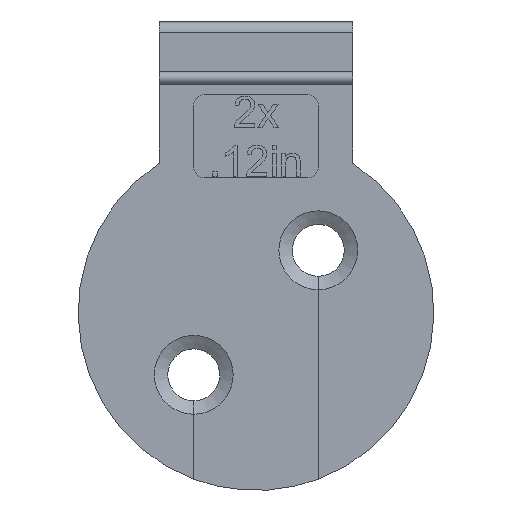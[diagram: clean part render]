
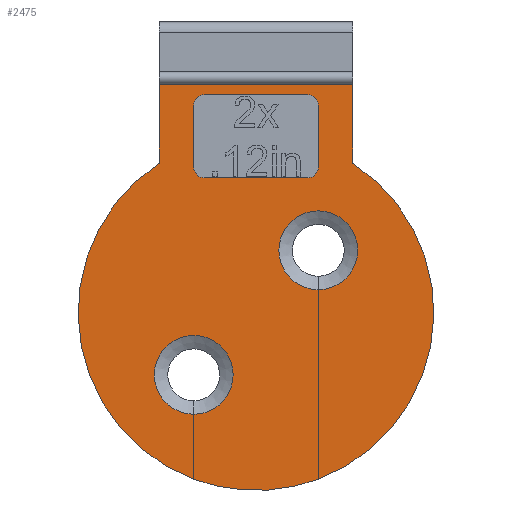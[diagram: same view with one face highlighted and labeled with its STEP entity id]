
A CAD part, left-side view. The second image highlights one B-rep face of the part: STEP entity #2475.
In plain terms, the highlighted planar face has unit normal (-1, 0, 0).
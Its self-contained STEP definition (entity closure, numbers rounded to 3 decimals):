
#60=FACE_BOUND('',#438,.T.);
#62=CIRCLE('',#2581,0.5);
#64=CIRCLE('',#2585,0.5);
#66=CIRCLE('',#2589,0.5);
#68=CIRCLE('',#2593,0.5);
#70=CIRCLE('',#2602,1.9);
#78=CIRCLE('',#2616,8.57);
#79=CIRCLE('',#2617,8.57);
#80=CIRCLE('',#2618,1.9);
#81=CIRCLE('',#2619,8.57);
#299=FACE_OUTER_BOUND('',#437,.T.);
#437=EDGE_LOOP('',(#2115,#2116,#2117,#2118,#2119,#2120,#2121,#2122,#2123,
#2124,#2125,#2126));
#438=EDGE_LOOP('',(#2127,#2128,#2129,#2130,#2131,#2132,#2133,#2134));
#636=LINE('',#4020,#891);
#640=LINE('',#4032,#895);
#644=LINE('',#4044,#899);
#648=LINE('',#4054,#903);
#656=LINE('',#4073,#911);
#658=LINE('',#4086,#913);
#669=LINE('',#4109,#924);
#677=LINE('',#4134,#932);
#681=LINE('',#4159,#936);
#682=LINE('',#4161,#937);
#683=LINE('',#4163,#938);
#891=VECTOR('',#2956,10.);
#895=VECTOR('',#2968,10.);
#899=VECTOR('',#2980,10.);
#903=VECTOR('',#2992,10.);
#911=VECTOR('',#3004,10.);
#913=VECTOR('',#3008,10.);
#924=VECTOR('',#3021,10.);
#932=VECTOR('',#3031,10.);
#936=VECTOR('',#3069,10.);
#937=VECTOR('',#3070,10.);
#938=VECTOR('',#3071,10.);
#1126=VERTEX_POINT('',#4011);
#1127=VERTEX_POINT('',#4013);
#1129=VERTEX_POINT('',#4019);
#1131=VERTEX_POINT('',#4025);
#1133=VERTEX_POINT('',#4031);
#1135=VERTEX_POINT('',#4037);
#1137=VERTEX_POINT('',#4043);
#1139=VERTEX_POINT('',#4049);
#1147=VERTEX_POINT('',#4070);
#1148=VERTEX_POINT('',#4072);
#1151=VERTEX_POINT('',#4081);
#1152=VERTEX_POINT('',#4085);
#1162=VERTEX_POINT('',#4106);
#1163=VERTEX_POINT('',#4108);
#1172=VERTEX_POINT('',#4129);
#1173=VERTEX_POINT('',#4133);
#1176=VERTEX_POINT('',#4156);
#1177=VERTEX_POINT('',#4158);
#1178=VERTEX_POINT('',#4160);
#1179=VERTEX_POINT('',#4162);
#1439=EDGE_CURVE('',#1127,#1126,#62,.T.);
#1442=EDGE_CURVE('',#1129,#1127,#636,.T.);
#1445=EDGE_CURVE('',#1131,#1129,#64,.T.);
#1448=EDGE_CURVE('',#1133,#1131,#640,.T.);
#1451=EDGE_CURVE('',#1135,#1133,#66,.T.);
#1454=EDGE_CURVE('',#1137,#1135,#644,.T.);
#1457=EDGE_CURVE('',#1139,#1137,#68,.T.);
#1460=EDGE_CURVE('',#1126,#1139,#648,.T.);
#1468=EDGE_CURVE('',#1148,#1147,#656,.T.);
#1472=EDGE_CURVE('',#1152,#1151,#658,.T.);
#1483=EDGE_CURVE('',#1163,#1162,#669,.T.);
#1493=EDGE_CURVE('',#1173,#1172,#677,.T.);
#1498=EDGE_CURVE('',#1147,#1152,#70,.T.);
#1506=EDGE_CURVE('',#1176,#1151,#78,.T.);
#1507=EDGE_CURVE('',#1177,#1176,#681,.T.);
#1508=EDGE_CURVE('',#1178,#1177,#682,.T.);
#1509=EDGE_CURVE('',#1179,#1178,#683,.T.);
#1510=EDGE_CURVE('',#1163,#1179,#79,.T.);
#1511=EDGE_CURVE('',#1162,#1173,#80,.T.);
#1512=EDGE_CURVE('',#1148,#1172,#81,.T.);
#2115=ORIENTED_EDGE('',*,*,#1468,.T.);
#2116=ORIENTED_EDGE('',*,*,#1498,.T.);
#2117=ORIENTED_EDGE('',*,*,#1472,.T.);
#2118=ORIENTED_EDGE('',*,*,#1506,.F.);
#2119=ORIENTED_EDGE('',*,*,#1507,.F.);
#2120=ORIENTED_EDGE('',*,*,#1508,.F.);
#2121=ORIENTED_EDGE('',*,*,#1509,.F.);
#2122=ORIENTED_EDGE('',*,*,#1510,.F.);
#2123=ORIENTED_EDGE('',*,*,#1483,.T.);
#2124=ORIENTED_EDGE('',*,*,#1511,.T.);
#2125=ORIENTED_EDGE('',*,*,#1493,.T.);
#2126=ORIENTED_EDGE('',*,*,#1512,.F.);
#2127=ORIENTED_EDGE('',*,*,#1439,.T.);
#2128=ORIENTED_EDGE('',*,*,#1460,.T.);
#2129=ORIENTED_EDGE('',*,*,#1457,.T.);
#2130=ORIENTED_EDGE('',*,*,#1454,.T.);
#2131=ORIENTED_EDGE('',*,*,#1451,.T.);
#2132=ORIENTED_EDGE('',*,*,#1448,.T.);
#2133=ORIENTED_EDGE('',*,*,#1445,.T.);
#2134=ORIENTED_EDGE('',*,*,#1442,.T.);
#2358=PLANE('',#2615);
#2475=ADVANCED_FACE('',(#299,#60),#2358,.F.);
#2581=AXIS2_PLACEMENT_3D('',#4014,#2950,#2951);
#2585=AXIS2_PLACEMENT_3D('',#4026,#2962,#2963);
#2589=AXIS2_PLACEMENT_3D('',#4038,#2974,#2975);
#2593=AXIS2_PLACEMENT_3D('',#4050,#2986,#2987);
#2602=AXIS2_PLACEMENT_3D('',#4142,#3039,#3040);
#2615=AXIS2_PLACEMENT_3D('',#4155,#3065,#3066);
#2616=AXIS2_PLACEMENT_3D('',#4157,#3067,#3068);
#2617=AXIS2_PLACEMENT_3D('',#4164,#3072,#3073);
#2618=AXIS2_PLACEMENT_3D('',#4165,#3074,#3075);
#2619=AXIS2_PLACEMENT_3D('',#4166,#3076,#3077);
#2950=DIRECTION('center_axis',(1.,0.,0.));
#2951=DIRECTION('ref_axis',(0.,0.,-1.));
#2956=DIRECTION('',(0.,0.,1.));
#2962=DIRECTION('center_axis',(1.,0.,0.));
#2963=DIRECTION('ref_axis',(0.,-1.,0.));
#2968=DIRECTION('',(0.,1.,0.));
#2974=DIRECTION('center_axis',(1.,0.,0.));
#2975=DIRECTION('ref_axis',(0.,0.,
1.));
#2980=DIRECTION('',(0.,0.,-1.));
#2986=DIRECTION('center_axis',(1.,0.,0.));
#2987=DIRECTION('ref_axis',(0.,1.,0.));
#2992=DIRECTION('',(0.,-1.,0.));
#3004=DIRECTION('',(0.,0.,1.));
#3008=DIRECTION('',(0.,0.,-1.));
#3021=DIRECTION('',(0.,0.,1.));
#3031=DIRECTION('',(0.,0.,-1.));
#3039=DIRECTION('center_axis',(1.,0.,0.));
#3040=DIRECTION('ref_axis',(0.,0.,1.));
#3065=DIRECTION('center_axis',(1.,0.,0.));
#3066=DIRECTION('ref_axis',(0.,0.,-1.));
#3067=DIRECTION('center_axis',(1.,0.,0.));
#3068=DIRECTION('ref_axis',(0.,0.,-1.));
#3069=DIRECTION('',(0.,0.,-1.));
#3070=DIRECTION('',(0.,-1.,0.));
#3071=DIRECTION('',(0.,0.,1.));
#3072=DIRECTION('center_axis',(1.,0.,0.));
#3073=DIRECTION('ref_axis',(0.,0.,-1.));
#3074=DIRECTION('center_axis',(1.,0.,0.));
#3075=DIRECTION('ref_axis',(0.,0.,-1.));
#3076=DIRECTION('center_axis',(1.,0.,0.));
#3077=DIRECTION('ref_axis',(0.,0.,-1.));
#4011=CARTESIAN_POINT('',(-0.8,2.5,10.5));
#4013=CARTESIAN_POINT('',(-0.8,3.,10.));
#4014=CARTESIAN_POINT('Origin',(-0.8,2.5,10.));
#4019=CARTESIAN_POINT('',(-0.8,3.,7.));
#4020=CARTESIAN_POINT('',(-0.8,3.,5.));
#4025=CARTESIAN_POINT('',(-0.8,2.5,6.5));
#4026=CARTESIAN_POINT('Origin',(-0.8,2.5,7.));
#4031=CARTESIAN_POINT('',(-0.8,-2.5,6.5));
#4032=CARTESIAN_POINT('',(-0.8,1.25,6.5));
#4037=CARTESIAN_POINT('',(-0.8,-3.,7.));
#4038=CARTESIAN_POINT('Origin',(-0.8,-2.5,7.));
#4043=CARTESIAN_POINT('',(-0.8,-3.,10.));
#4044=CARTESIAN_POINT('',(-0.8,-3.,3.5));
#4049=CARTESIAN_POINT('',(-0.8,-2.5,10.5));
#4050=CARTESIAN_POINT('Origin',(-0.8,-2.5,10.));
#4054=CARTESIAN_POINT('',(-0.8,-1.25,10.5));
#4070=CARTESIAN_POINT('',(-0.8,-2.995,1.1));
#4072=CARTESIAN_POINT('',(-0.8,-2.995,-8.03));
#4073=CARTESIAN_POINT('',(-0.8,-2.995,-4.015));
#4081=CARTESIAN_POINT('',(-0.8,-3.005,-8.026));
#4085=CARTESIAN_POINT('',(-0.8,-3.005,1.1));
#4086=CARTESIAN_POINT('',(-0.8,-3.005,0.875));
#4106=CARTESIAN_POINT('',(-0.8,3.005,-4.9));
#4108=CARTESIAN_POINT('',(-0.8,3.005,-8.026));
#4109=CARTESIAN_POINT('',(-0.8,3.005,-4.013));
#4129=CARTESIAN_POINT('',(-0.8,2.995,-8.03));
#4133=CARTESIAN_POINT('',(-0.8,2.995,-4.9));
#4134=CARTESIAN_POINT('',(-0.8,2.995,-2.125));
#4142=CARTESIAN_POINT('Origin',(-0.8,-3.,3.));
#4155=CARTESIAN_POINT('Origin',(-0.8,0.,
0.));
#4156=CARTESIAN_POINT('',(-0.8,-4.65,7.199));
#4157=CARTESIAN_POINT('Origin',(-0.8,0.,
0.));
#4158=CARTESIAN_POINT('',(-0.8,-4.65,11.));
#4159=CARTESIAN_POINT('',(-0.8,-4.65,7.115));
#4160=CARTESIAN_POINT('',(-0.8,4.65,11.));
#4161=CARTESIAN_POINT('',(-0.8,-2.325,11.));
#4162=CARTESIAN_POINT('',(-0.8,4.65,7.199));
#4163=CARTESIAN_POINT('',(-0.8,4.65,11.));
#4164=CARTESIAN_POINT('Origin',(-0.8,0.,
0.));
#4165=CARTESIAN_POINT('Origin',(-0.8,3.,-3.));
#4166=CARTESIAN_POINT('Origin',(-0.8,0.,
0.));
